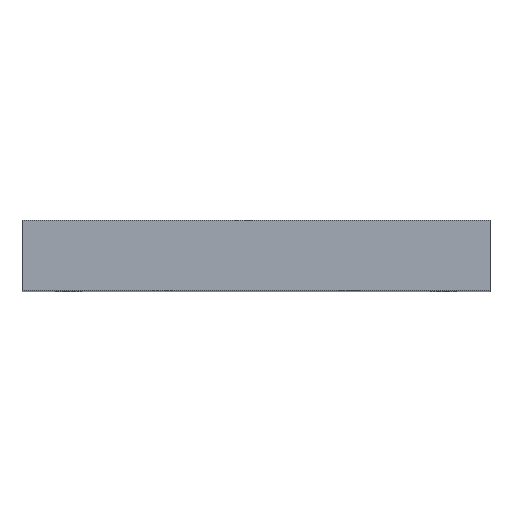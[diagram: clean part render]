
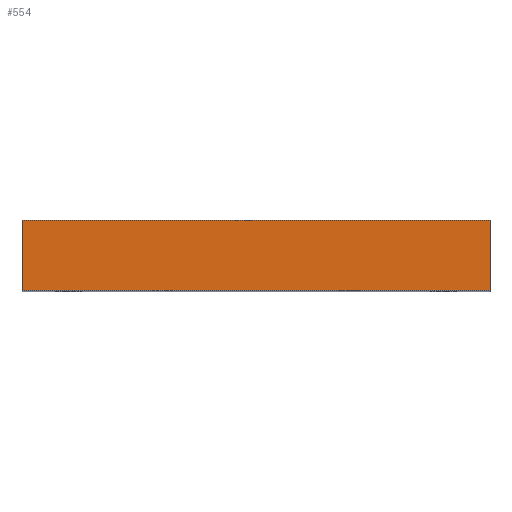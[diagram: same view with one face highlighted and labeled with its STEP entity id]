
A CAD part, top view. The second image highlights one B-rep face of the part: STEP entity #554.
In plain terms, the highlighted planar face has unit normal (0, 0, 1).
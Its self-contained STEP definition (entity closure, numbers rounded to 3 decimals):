
#24 = VERTEX_POINT('',#25);
#25 = CARTESIAN_POINT('',(-40.,-6.,274.));
#32 = PLANE('',#33);
#33 = AXIS2_PLACEMENT_3D('',#34,#35,#36);
#34 = CARTESIAN_POINT('',(-40.,-6.,125.));
#35 = DIRECTION('',(1.,0.,0.));
#36 = DIRECTION('',(0.,0.,1.));
#44 = PLANE('',#45);
#45 = AXIS2_PLACEMENT_3D('',#46,#47,#48);
#46 = CARTESIAN_POINT('',(-40.,-6.,125.));
#47 = DIRECTION('',(0.,1.,0.));
#48 = DIRECTION('',(0.,0.,1.));
#85 = VERTEX_POINT('',#86);
#86 = CARTESIAN_POINT('',(-40.,6.,274.));
#100 = PLANE('',#101);
#101 = AXIS2_PLACEMENT_3D('',#102,#103,#104);
#102 = CARTESIAN_POINT('',(-40.,6.,125.));
#103 = DIRECTION('',(0.,1.,0.));
#104 = DIRECTION('',(0.,0.,1.));
#112 = EDGE_CURVE('',#24,#85,#113,.T.);
#113 = SURFACE_CURVE('',#114,(#118,#125),.PCURVE_S1.);
#114 = LINE('',#115,#116);
#115 = CARTESIAN_POINT('',(-40.,-6.,274.));
#116 = VECTOR('',#117,1.);
#117 = DIRECTION('',(0.,1.,0.));
#118 = PCURVE('',#32,#119);
#119 = DEFINITIONAL_REPRESENTATION('',(#120),#124);
#120 = LINE('',#121,#122);
#121 = CARTESIAN_POINT('',(149.,0.));
#122 = VECTOR('',#123,1.);
#123 = DIRECTION('',(0.,-1.));
#124 = ( GEOMETRIC_REPRESENTATION_CONTEXT(2) 
PARAMETRIC_REPRESENTATION_CONTEXT() REPRESENTATION_CONTEXT('2D SPACE',''
  ) );
#125 = PCURVE('',#126,#131);
#126 = PLANE('',#127);
#127 = AXIS2_PLACEMENT_3D('',#128,#129,#130);
#128 = CARTESIAN_POINT('',(-40.,-6.,274.));
#129 = DIRECTION('',(0.,0.,1.));
#130 = DIRECTION('',(1.,0.,0.));
#131 = DEFINITIONAL_REPRESENTATION('',(#132),#136);
#132 = LINE('',#133,#134);
#133 = CARTESIAN_POINT('',(0.,0.));
#134 = VECTOR('',#135,1.);
#135 = DIRECTION('',(0.,1.));
#136 = ( GEOMETRIC_REPRESENTATION_CONTEXT(2) 
PARAMETRIC_REPRESENTATION_CONTEXT() REPRESENTATION_CONTEXT('2D SPACE',''
  ) );
#165 = EDGE_CURVE('',#24,#166,#168,.T.);
#166 = VERTEX_POINT('',#167);
#167 = CARTESIAN_POINT('',(40.,-6.,274.));
#168 = SURFACE_CURVE('',#169,(#173,#180),.PCURVE_S1.);
#169 = LINE('',#170,#171);
#170 = CARTESIAN_POINT('',(-40.,-6.,274.));
#171 = VECTOR('',#172,1.);
#172 = DIRECTION('',(1.,0.,0.));
#173 = PCURVE('',#44,#174);
#174 = DEFINITIONAL_REPRESENTATION('',(#175),#179);
#175 = LINE('',#176,#177);
#176 = CARTESIAN_POINT('',(149.,0.));
#177 = VECTOR('',#178,1.);
#178 = DIRECTION('',(0.,1.));
#179 = ( GEOMETRIC_REPRESENTATION_CONTEXT(2) 
PARAMETRIC_REPRESENTATION_CONTEXT() REPRESENTATION_CONTEXT('2D SPACE',''
  ) );
#180 = PCURVE('',#126,#181);
#181 = DEFINITIONAL_REPRESENTATION('',(#182),#186);
#182 = LINE('',#183,#184);
#183 = CARTESIAN_POINT('',(0.,0.));
#184 = VECTOR('',#185,1.);
#185 = DIRECTION('',(1.,0.));
#186 = ( GEOMETRIC_REPRESENTATION_CONTEXT(2) 
PARAMETRIC_REPRESENTATION_CONTEXT() REPRESENTATION_CONTEXT('2D SPACE',''
  ) );
#202 = PLANE('',#203);
#203 = AXIS2_PLACEMENT_3D('',#204,#205,#206);
#204 = CARTESIAN_POINT('',(40.,-6.,125.));
#205 = DIRECTION('',(1.,0.,0.));
#206 = DIRECTION('',(0.,0.,1.));
#554 = ADVANCED_FACE('',(#555),#126,.T.);
#555 = FACE_BOUND('',#556,.T.);
#556 = EDGE_LOOP('',(#557,#558,#559,#582));
#557 = ORIENTED_EDGE('',*,*,#112,.F.);
#558 = ORIENTED_EDGE('',*,*,#165,.T.);
#559 = ORIENTED_EDGE('',*,*,#560,.T.);
#560 = EDGE_CURVE('',#166,#561,#563,.T.);
#561 = VERTEX_POINT('',#562);
#562 = CARTESIAN_POINT('',(40.,6.,274.));
#563 = SURFACE_CURVE('',#564,(#568,#575),.PCURVE_S1.);
#564 = LINE('',#565,#566);
#565 = CARTESIAN_POINT('',(40.,-6.,274.));
#566 = VECTOR('',#567,1.);
#567 = DIRECTION('',(0.,1.,0.));
#568 = PCURVE('',#126,#569);
#569 = DEFINITIONAL_REPRESENTATION('',(#570),#574);
#570 = LINE('',#571,#572);
#571 = CARTESIAN_POINT('',(80.,0.));
#572 = VECTOR('',#573,1.);
#573 = DIRECTION('',(0.,1.));
#574 = ( GEOMETRIC_REPRESENTATION_CONTEXT(2) 
PARAMETRIC_REPRESENTATION_CONTEXT() REPRESENTATION_CONTEXT('2D SPACE',''
  ) );
#575 = PCURVE('',#202,#576);
#576 = DEFINITIONAL_REPRESENTATION('',(#577),#581);
#577 = LINE('',#578,#579);
#578 = CARTESIAN_POINT('',(149.,0.));
#579 = VECTOR('',#580,1.);
#580 = DIRECTION('',(0.,-1.));
#581 = ( GEOMETRIC_REPRESENTATION_CONTEXT(2) 
PARAMETRIC_REPRESENTATION_CONTEXT() REPRESENTATION_CONTEXT('2D SPACE',''
  ) );
#582 = ORIENTED_EDGE('',*,*,#583,.F.);
#583 = EDGE_CURVE('',#85,#561,#584,.T.);
#584 = SURFACE_CURVE('',#585,(#589,#596),.PCURVE_S1.);
#585 = LINE('',#586,#587);
#586 = CARTESIAN_POINT('',(-40.,6.,274.));
#587 = VECTOR('',#588,1.);
#588 = DIRECTION('',(1.,0.,0.));
#589 = PCURVE('',#126,#590);
#590 = DEFINITIONAL_REPRESENTATION('',(#591),#595);
#591 = LINE('',#592,#593);
#592 = CARTESIAN_POINT('',(0.,12.));
#593 = VECTOR('',#594,1.);
#594 = DIRECTION('',(1.,0.));
#595 = ( GEOMETRIC_REPRESENTATION_CONTEXT(2) 
PARAMETRIC_REPRESENTATION_CONTEXT() REPRESENTATION_CONTEXT('2D SPACE',''
  ) );
#596 = PCURVE('',#100,#597);
#597 = DEFINITIONAL_REPRESENTATION('',(#598),#602);
#598 = LINE('',#599,#600);
#599 = CARTESIAN_POINT('',(149.,0.));
#600 = VECTOR('',#601,1.);
#601 = DIRECTION('',(0.,1.));
#602 = ( GEOMETRIC_REPRESENTATION_CONTEXT(2) 
PARAMETRIC_REPRESENTATION_CONTEXT() REPRESENTATION_CONTEXT('2D SPACE',''
  ) );
